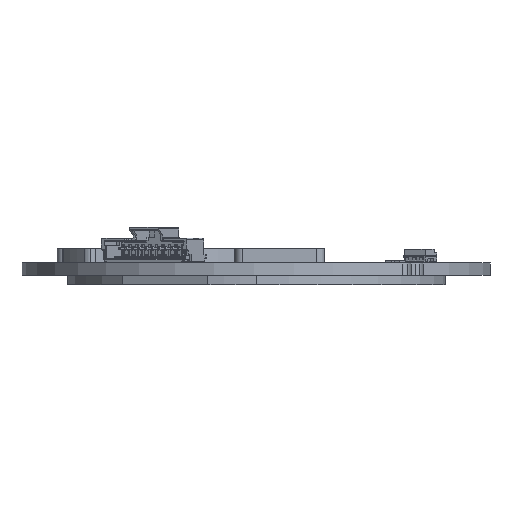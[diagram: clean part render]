
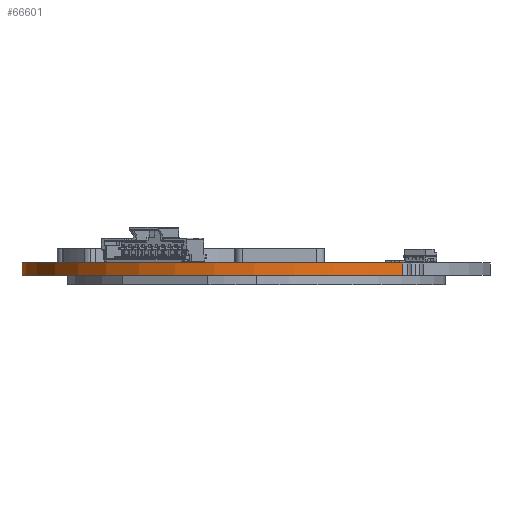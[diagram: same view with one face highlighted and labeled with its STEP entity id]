
A CAD part, left-side view. The second image highlights one B-rep face of the part: STEP entity #66601.
In plain terms, the highlighted cylindrical face has radius 31 mm (diameter 62 mm), a partial arc.
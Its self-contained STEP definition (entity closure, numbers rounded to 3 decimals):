
#634 = DIRECTION ( 'NONE',  ( 0., 0., 1. ) ) ;
#6633 = CARTESIAN_POINT ( 'NONE',  ( 1.767, -45.333, -1.6 ) ) ;
#8159 = VECTOR ( 'NONE', #66467, 1000. ) ;
#10149 = FACE_OUTER_BOUND ( 'NONE', #94226, .T. ) ;
#10919 = AXIS2_PLACEMENT_3D ( 'NONE', #96235, #105226, #27696 ) ;
#12953 = DIRECTION ( 'NONE',  ( 1., 0., 0. ) ) ;
#13591 = CARTESIAN_POINT ( 'NONE',  ( 1.767, -45.333, -1.6 ) ) ;
#15902 = ORIENTED_EDGE ( 'NONE', *, *, #29083, .T. ) ;
#19404 = AXIS2_PLACEMENT_3D ( 'NONE', #39547, #38978, #12953 ) ;
#19743 = VECTOR ( 'NONE', #56124, 1000. ) ;
#21359 = CARTESIAN_POINT ( 'NONE',  ( 30.626, 4.653, -1.6 ) ) ;
#25805 = ORIENTED_EDGE ( 'NONE', *, *, #48751, .F. ) ;
#27696 = DIRECTION ( 'NONE',  ( 1., 0., 0. ) ) ;
#29083 = EDGE_CURVE ( 'NONE', #107105, #75562, #108703, .T. ) ;
#30220 = CARTESIAN_POINT ( 'NONE',  ( 30.626, 4.653, -1.6 ) ) ;
#32252 = CARTESIAN_POINT ( 'NONE',  ( 30.626, 4.653, 0. ) ) ;
#37963 = ORIENTED_EDGE ( 'NONE', *, *, #89687, .F. ) ;
#38978 = DIRECTION ( 'NONE',  ( 0., 0., -1. ) ) ;
#39547 = CARTESIAN_POINT ( 'NONE',  ( 25.999, -25.999, -1.6 ) ) ;
#46994 = VERTEX_POINT ( 'NONE', #32252 ) ;
#48751 = EDGE_CURVE ( 'NONE', #88689, #46994, #65382, .T. ) ;
#52362 = EDGE_CURVE ( 'NONE', #88689, #107105, #66898, .T. ) ;
#53330 = CARTESIAN_POINT ( 'NONE',  ( 25.999, -25.999, -1.6 ) ) ;
#56124 = DIRECTION ( 'NONE',  ( 0., 0., 1. ) ) ;
#63487 = DIRECTION ( 'NONE',  ( 1., 0., 0. ) ) ;
#65382 = LINE ( 'NONE', #30220, #8159 ) ;
#66467 = DIRECTION ( 'NONE',  ( 0., 0., 1. ) ) ;
#66601 = ADVANCED_FACE ( 'NONE', ( #10149 ), #105826, .T. ) ;
#66898 = CIRCLE ( 'NONE', #92112, 31. ) ;
#75562 = VERTEX_POINT ( 'NONE', #97894 ) ;
#76039 = CIRCLE ( 'NONE', #10919, 31. ) ;
#88689 = VERTEX_POINT ( 'NONE', #21359 ) ;
#89621 = ORIENTED_EDGE ( 'NONE', *, *, #52362, .T. ) ;
#89687 = EDGE_CURVE ( 'NONE', #46994, #75562, #76039, .T. ) ;
#92112 = AXIS2_PLACEMENT_3D ( 'NONE', #53330, #634, #63487 ) ;
#94226 = EDGE_LOOP ( 'NONE', ( #89621, #15902, #37963, #25805 ) ) ;
#96235 = CARTESIAN_POINT ( 'NONE',  ( 25.999, -25.999, 0. ) ) ;
#97894 = CARTESIAN_POINT ( 'NONE',  ( 1.767, -45.333, 0. ) ) ;
#105226 = DIRECTION ( 'NONE',  ( 0., 0., 1. ) ) ;
#105826 = CYLINDRICAL_SURFACE ( 'NONE', #19404, 31. ) ;
#107105 = VERTEX_POINT ( 'NONE', #6633 ) ;
#108703 = LINE ( 'NONE', #13591, #19743 ) ;
